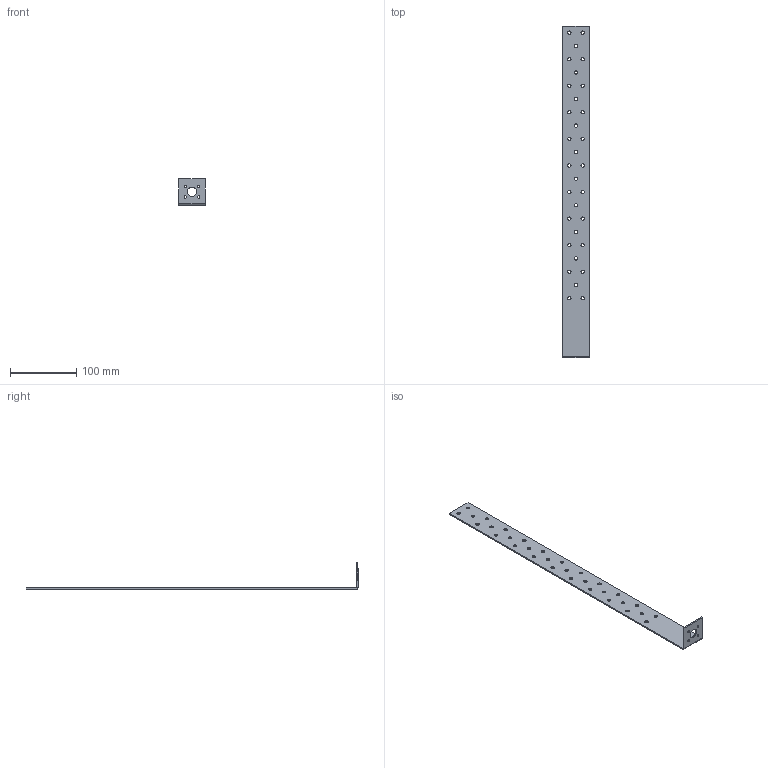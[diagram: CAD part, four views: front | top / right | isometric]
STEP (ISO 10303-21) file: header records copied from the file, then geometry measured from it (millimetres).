
FILE_DESCRIPTION (( 'STEP AP203' ), '1' );
FILE_NAME ('90504.STEP', '2021-06-22T13:20:58', ( '' ), ( '' ), 'SwSTEP 2.0', 'SolidWorks 2013', '' );
FILE_SCHEMA (( 'CONFIG_CONTROL_DESIGN' ));
Length unit declared in the file: millimetre
Products named in the file (1): 90504
Bounding box: 40 x 500 x 40 mm (x, y, z)
Volume: 41335.5 mm3; surface area: 44827.8 mm2
Topology: 1 solids, 1 shells, 88 faces, 250 edges, 164 vertices
Faces by surface type: cylinder 76, plane 12
Entity records: 3169 total; most frequent: DIRECTION 580, CARTESIAN_POINT 503, ORIENTED_EDGE 500, EDGE_CURVE 250, AXIS2_PLACEMENT_3D 241, VERTEX_POINT 164, EDGE_LOOP 162, CIRCLE 152
